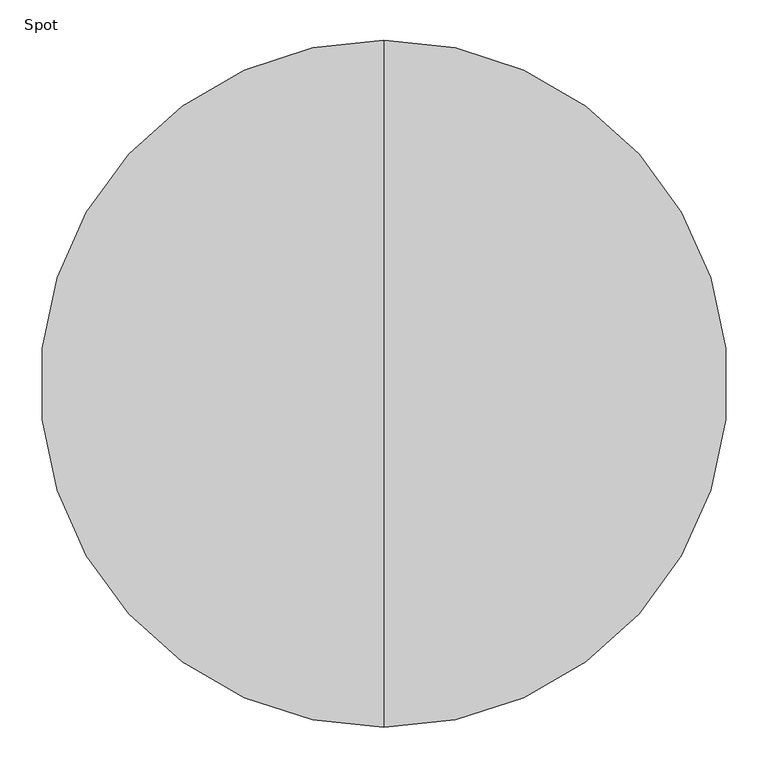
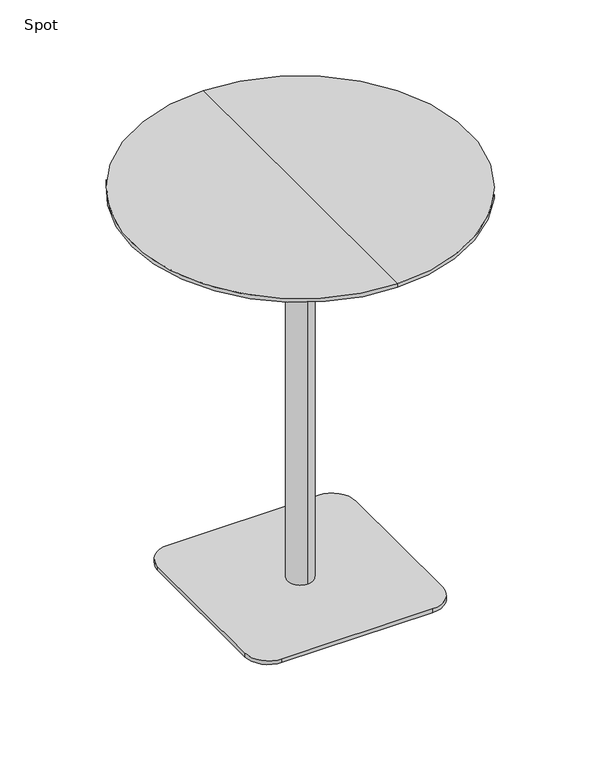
"""IFC4 building model written with IfcOpenShell, lengths in millimetres: furniture geometry, Spot : ø85x105s."""

import ifcopenshell
import ifcopenshell.guid

model = None  # the IFC model being written
_history = None  # IfcOwnerHistory: only IFC2X3 demands one
_inside = {}  # id of a spatial element -> (the spatial element, [elements in it])
_under = {}  # id of a project, library or spatial element -> (it, [spatial elements below it])
_declared = {}  # id of a project -> (the project, [libraries it declares])
_typed = {}  # id of a type object -> (the type object, [elements of that type])
_made_of = {}  # id of a material, layer set ... -> (it, [elements and type objects made of it])


def new_model(schema):
    """Start an empty IFC model of exactly this schema.

    Asked for "IFC4X3", IfcOpenShell would pick the latest addendum, in which some entities
    have other attributes; the version numbers below select the first issue.
    IFC2X3 requires an IfcOwnerHistory on every rooted entity: one is made here for all.
    """
    global model, _history
    if schema == "IFC4X3":
        model = ifcopenshell.file(schema_version=(4, 3, 0, 0))
    else:
        model = ifcopenshell.file(schema=schema)
    _inside.clear()
    _under.clear()
    _declared.clear()
    _typed.clear()
    _made_of.clear()
    _history = None
    if model.schema == "IFC2X3":
        org = make("IfcOrganization", Name="unknown")
        user = make(
            "IfcPersonAndOrganization",
            ThePerson=make("IfcPerson", FamilyName="unknown"),
            TheOrganization=org,
        )
        app = make(
            "IfcApplication",
            ApplicationDeveloper=org,
            Version="unknown",
            ApplicationFullName="unknown",
            ApplicationIdentifier="unknown",
        )
        _history = make(
            "IfcOwnerHistory",
            OwningUser=user,
            OwningApplication=app,
            ChangeAction="ADDED",
            CreationDate=0,
        )
    return model


def make(cls, **values):
    """One entity of the class cls with the attributes given. An attribute that is None is left unset."""
    return model.create_entity(
        cls, **{name: value for name, value in values.items() if value is not None}
    )


def rooted(cls, **values):
    """An entity with a GlobalId (a new one), such as an element, a storey or a relation."""
    return make(cls, GlobalId=ifcopenshell.guid.new(), OwnerHistory=_history, **values)


def si_unit(unit_type, name, prefix=None):
    """IfcSIUnit, for example si_unit("LENGTHUNIT", "METRE", prefix="MILLI")."""
    return make("IfcSIUnit", UnitType=unit_type, Prefix=prefix, Name=name)


def assignment(units):
    """IfcUnitAssignment: the units of a project."""
    return None if units is None else make("IfcUnitAssignment", Units=units)


def point(xyz):
    """IfcCartesianPoint."""
    return None if xyz is None else make("IfcCartesianPoint", Coordinates=xyz)


def direction(xyz):
    """IfcDirection."""
    return None if xyz is None else make("IfcDirection", DirectionRatios=xyz)


def frame(location, z_axis=None, x_axis=None):
    """IfcAxis2Placement3D, a coordinate frame: its origin and axes. An axis left out is left unset."""
    return make(
        "IfcAxis2Placement3D",
        Location=point(location),
        Axis=direction(z_axis),
        RefDirection=direction(x_axis),
    )


def frame_2d(location, x_axis=None):
    """IfcAxis2Placement2D, a coordinate frame in the plane: its origin and x axis."""
    return make(
        "IfcAxis2Placement2D", Location=point(location), RefDirection=direction(x_axis)
    )


def origin():
    """The frame at (0, 0, 0) with its axes left unset."""
    return frame((0.0, 0.0, 0.0))


def origin_with_axes():
    """The frame at (0, 0, 0) with the z axis (0, 0, 1) and the x axis (1, 0, 0) written out."""
    return frame((0.0, 0.0, 0.0), z_axis=(0.0, 0.0, 1.0), x_axis=(1.0, 0.0, 0.0))


def place(relative_to, where):
    """IfcLocalPlacement: puts the frame where relative to a parent placement (None: the world)."""
    return make(
        "IfcLocalPlacement", PlacementRelTo=relative_to, RelativePlacement=where
    )


def context(
    kind, dimensions, precision=None, world=None, true_north=None, identifier=None
):
    """IfcGeometricRepresentationContext, for example the 3D "Model" context."""
    return make(
        "IfcGeometricRepresentationContext",
        ContextIdentifier=identifier,
        ContextType=kind,
        CoordinateSpaceDimension=dimensions,
        Precision=precision,
        WorldCoordinateSystem=world,
        TrueNorth=true_north,
    )


def project(units=None, contexts=None):
    """IfcProject with its units and contexts."""
    return rooted(
        "IfcProject",
        Name="project",
        RepresentationContexts=contexts,
        UnitsInContext=assignment(units),
    )


def spatial(cls, under=None, at=None, **own):
    """A site, building, storey or space (cls), placed at a placement, below another one or the project."""
    s = rooted(cls, ObjectPlacement=at, **own)
    if under is not None:
        _under.setdefault(under.id(), (under, []))[1].append(s)
    return s


def polyline(points):
    """IfcPolyline through the points."""
    return make("IfcPolyline", Points=[point(p) for p in points])


def circle_curve(where, radius):
    """IfcCircle in the frame where."""
    return make("IfcCircle", Position=where, Radius=radius)


def trimmed(basis, trim1, trim2, sense, master):
    """IfcTrimmedCurve: the piece of a basis curve between two trims."""
    return make(
        "IfcTrimmedCurve",
        BasisCurve=basis,
        Trim1=trim1,
        Trim2=trim2,
        SenseAgreement=sense,
        MasterRepresentation=master,
    )


def segment(curve, same_sense, transition):
    """IfcCompositeCurveSegment."""
    return make(
        "IfcCompositeCurveSegment",
        Transition=transition,
        SameSense=same_sense,
        ParentCurve=curve,
    )


def composite_curve(segments, self_intersect=None):
    """IfcCompositeCurve: segments joined end to end."""
    return make("IfcCompositeCurve", Segments=segments, SelfIntersect=self_intersect)


def outline(outer, holes=None, kind="AREA"):
    """IfcArbitraryClosedProfileDef: a profile drawn as a closed curve; with holes, ...WithVoids."""
    if holes is None:
        return make("IfcArbitraryClosedProfileDef", ProfileType=kind, OuterCurve=outer)
    return make(
        "IfcArbitraryProfileDefWithVoids",
        ProfileType=kind,
        OuterCurve=outer,
        InnerCurves=holes,
    )


def extrude(swept, where, along, depth):
    """IfcExtrudedAreaSolid: the profile swept, set in the frame where, extruded along a direction by depth."""
    return make(
        "IfcExtrudedAreaSolid",
        SweptArea=swept,
        Position=where,
        ExtrudedDirection=direction(along),
        Depth=depth,
    )


def shape(context_of_items, identifier, shape_type, items):
    """IfcShapeRepresentation: the items that make up one representation, for example the "Body"."""
    return make(
        "IfcShapeRepresentation",
        ContextOfItems=context_of_items,
        RepresentationIdentifier=identifier,
        RepresentationType=shape_type,
        Items=items,
    )


def source(mapping_origin, context_of_items, identifier, shape_type, items):
    """IfcRepresentationMap: a shape defined once, which mapped items show again and again."""
    return make(
        "IfcRepresentationMap",
        MappingOrigin=mapping_origin,
        MappedRepresentation=shape(context_of_items, identifier, shape_type, items),
    )


def transform(
    local_origin,
    x_axis=None,
    y_axis=None,
    z_axis=None,
    scale=None,
    scale2=None,
    scale3=None,
    uniform=True,
):
    """IfcCartesianTransformationOperator3D, or its non-uniform kind. x_axis, y_axis, z_axis: its Axis1, 2, 3."""
    if uniform:
        return make(
            "IfcCartesianTransformationOperator3D",
            Axis1=direction(x_axis),
            Axis2=direction(y_axis),
            LocalOrigin=point(local_origin),
            Scale=scale,
            Axis3=direction(z_axis),
        )
    return make(
        "IfcCartesianTransformationOperator3DnonUniform",
        Axis1=direction(x_axis),
        Axis2=direction(y_axis),
        LocalOrigin=point(local_origin),
        Scale=scale,
        Axis3=direction(z_axis),
        Scale2=scale2,
        Scale3=scale3,
    )


def mapped(mapping_source, mapping_target):
    """IfcMappedItem: shows the shape of a source again, moved by a transform."""
    return make(
        "IfcMappedItem", MappingSource=mapping_source, MappingTarget=mapping_target
    )


def made_of(thing, what):
    """Note that an element or type object is made of a material, layer set ...; save() writes the relation."""
    if what is not None:
        _made_of.setdefault(what.id(), (what, []))[1].append(thing)
    return thing


def element(
    cls,
    number,
    at=None,
    inside=None,
    cuts=None,
    type_object=None,
    material=None,
    context=None,
    identifier="Body",
    shape_type=None,
    held_by="IfcProductDefinitionShape",
    body=None,
    shapes=None,
    **own,
):
    """One element of the class cls, such as IfcWall. Its Tag is "e" and its number.

    at: its placement. inside: the storey or other place that contains it. cuts: it is an
    opening in that element (IfcRelVoidsElement). A single representation is given by context,
    identifier, shape_type and body (its items); several are given by shapes. held_by: the class
    of the entity that holds the representations. save() writes the other relations.
    """
    e = rooted(cls, Tag="e%d" % number, ObjectPlacement=at, **own)
    if body is not None:
        shapes = [shape(context, identifier, shape_type, body)]
    if shapes is not None:
        e.Representation = make(held_by, Representations=shapes)
    if inside is not None:
        _inside.setdefault(inside.id(), (inside, []))[1].append(e)
    if cuts is not None:
        rooted(
            "IfcRelVoidsElement", RelatingBuildingElement=cuts, RelatedOpeningElement=e
        )
    if type_object is not None:
        _typed.setdefault(type_object.id(), (type_object, []))[1].append(e)
    return made_of(e, material)


def aggregate(whole, parts):
    """IfcRelAggregates: a whole, such as a stair, and the parts it consists of."""
    return rooted("IfcRelAggregates", RelatingObject=whole, RelatedObjects=parts)


def save(model, path):
    """Write the relations noted so far, then the file.

    IfcRelAggregates (storeys below a building ...), IfcRelContainedInSpatialStructure (elements
    in a storey), IfcRelDefinesByType, IfcRelAssociatesMaterial and IfcRelDeclares: one each for
    every whole, place, type object, material and project.
    """
    for whole, parts in _under.values():
        aggregate(whole, parts)
    for where, things in _inside.values():
        rooted(
            "IfcRelContainedInSpatialStructure",
            RelatedElements=things,
            RelatingStructure=where,
        )
    for kind, things in _typed.values():
        rooted("IfcRelDefinesByType", RelatedObjects=things, RelatingType=kind)
    for what, things in _made_of.values():
        rooted("IfcRelAssociatesMaterial", RelatedObjects=things, RelatingMaterial=what)
    for by, libraries in _declared.values():
        rooted("IfcRelDeclares", RelatingContext=by, RelatedDefinitions=libraries)
    model.write(path)


def plane_surface(at):
    """IfcPlane: the flat surface through the origin of the frame at, square to its z axis."""
    return make("IfcPlane", Position=at)


def cylinder_surface(at, radius):
    """IfcCylindricalSurface: all points at the distance radius from the z axis of the frame at."""
    return make("IfcCylindricalSurface", Position=at, Radius=radius)


def revolved_surface(curve, axis_point, axis_direction):
    """IfcSurfaceOfRevolution: the curve turned about the line through axis_point along axis_direction."""
    return make(
        "IfcSurfaceOfRevolution",
        SweptCurve=make("IfcArbitraryOpenProfileDef", ProfileType="CURVE", Curve=curve),
        AxisPosition=make("IfcAxis1Placement", Location=point(axis_point), Axis=direction(axis_direction)),
    )


def advanced_brep(points, edges, surfaces, faces):
    """IfcAdvancedBrep: a solid bounded by faces that lie on surfaces and meet in shared edges.

    An edge is (start, end): straight between two places in points (the first is 0);
    or (start, end, curve); or (start, end, curve, False) where it runs against its curve.
    A face is (place in surfaces, loops), or (place, loops, False) where it looks against
    its surface's normal. A loop lists edges by number (the first is 1), with a minus sign
    where the edge is run from its end to its start. The first loop is the outer one.
    """
    corners = [point(p) for p in points]
    vertices = [make("IfcVertexPoint", VertexGeometry=c) for c in corners]
    made = []
    for start, end, *more in edges:
        made.append(
            make(
                "IfcEdgeCurve",
                EdgeStart=vertices[start],
                EdgeEnd=vertices[end],
                EdgeGeometry=more[0] if more else make("IfcPolyline", Points=[corners[start], corners[end]]),
                SameSense=more[1] if len(more) > 1 else True,
            )
        )
    hull = []
    for where, loops, *sense in faces:
        bounds = []
        for j, loop in enumerate(loops):
            ring = [make("IfcOrientedEdge", EdgeElement=made[abs(k) - 1], Orientation=k > 0) for k in loop]
            bounds.append(
                make(
                    "IfcFaceOuterBound" if j == 0 else "IfcFaceBound",
                    Bound=make("IfcEdgeLoop", EdgeList=ring),
                    Orientation=True,
                )
            )
        hull.append(make("IfcAdvancedFace", Bounds=bounds, FaceSurface=surfaces[where], SameSense=sense[0] if sense else True))
    return make("IfcAdvancedBrep", Outer=make("IfcClosedShell", CfsFaces=hull))


def spot_0e79f22b(model_context):
    return source(origin(), model_context, "Body", "SolidModel", [
        advanced_brep(
        [(0.0, 425.0, 1050.0), (0.0, -425.0, 1050.0), (0.0, 0.0, 1050.0), (0.0, 425.0, 1040.25), (0.0, -425.0, 1040.25), (0.0, 379.2823776, 1028.0), (0.0, -379.2823776, 1028.0), (0.0, 0.0, 1028.0)],
        [
            (0, 1, circle_curve(frame((0.0, 0.0, 1050.0), z_axis=(0.0, 0.0, 1.0), x_axis=(0.0, -1.0, 0.0)), 425.0)),
            (1, 2),
            (2, 0),
            (1, 0, circle_curve(frame((0.0, 0.0, 1050.0), z_axis=(0.0, 0.0, 1.0), x_axis=(0.0, -1.0, 0.0)), 425.0)),
            (3, 4, circle_curve(frame((0.0, 0.0, 1040.25), z_axis=(0.0, 0.0, 1.0), x_axis=(0.0, -1.0, 0.0)), 425.0)),
            (4, 1),
            (0, 3),
            (4, 3, circle_curve(frame((0.0, 0.0, 1040.25), z_axis=(0.0, 0.0, 1.0), x_axis=(0.0, -1.0, 0.0)), 425.0)),
            (5, 6, circle_curve(frame((0.0, 0.0, 1028.0), z_axis=(0.0, 0.0, 1.0), x_axis=(0.0, -1.0, 0.0)), 379.2823776)),
            (6, 4),
            (3, 5),
            (6, 5, circle_curve(frame((0.0, 0.0, 1028.0), z_axis=(0.0, 0.0, 1.0), x_axis=(0.0, -1.0, 0.0)), 379.2823776)),
            (7, 6),
            (5, 7),
        ],
        [
            plane_surface(frame((0.0, 0.0, 1050.0), z_axis=(0.0, 0.0, 1.0), x_axis=(0.0, -1.0, 0.0))),
            cylinder_surface(frame((0.0, 0.0, 1130.0), z_axis=(0.0, 0.0, -1.0), x_axis=(0.0, -1.0, 0.0)), 425.0),
            revolved_surface(polyline([(0.0, -425.0, 1040.25), (0.0, -379.2823776, 1028.0)]), (0.0, 0.0, 1130.0), (0.0, 0.0, -1.0)),
            plane_surface(frame((0.0, 0.0, 1028.0), z_axis=(0.0, 0.0, -1.0), x_axis=(0.0, -1.0, 0.0))),
        ],
        [
            (0, [[1, 2, 3]]),
            (0, [[4, -3, -2]]),
            (1, [[5, 6, -1, 7]]),
            (1, [[8, -7, -4, -6]]),
            (2, [[9, 10, -5, 11]]),
            (2, [[12, -11, -8, -10]]),
            (3, [[13, -9, 14]]),
            (3, [[-14, -12, -13]]),
        ],
    ),
        extrude(outline(composite_curve([segment(trimmed(circle_curve(frame_2d((190.0, 190.0)), 60.0), [point((190.0, 250.0))], [point((250.0, 190.0))], False, "CARTESIAN"), True, "CONTINUOUS"), segment(polyline([(250.0, 190.0), (250.0, -190.0)]), True, "CONTINUOUS"), segment(trimmed(circle_curve(frame_2d((190.0, -190.0)), 60.0), [point((250.0, -190.0))], [point((190.0, -250.0))], False, "CARTESIAN"), True, "CONTINUOUS"), segment(polyline([(190.0, -250.0), (-190.0, -250.0)]), True, "CONTINUOUS"), segment(trimmed(circle_curve(frame_2d((-190.0, -190.0)), 60.0), [point((-190.0, -250.0))], [point((-250.0, -190.0))], False, "CARTESIAN"), True, "CONTINUOUS"), segment(polyline([(-250.0, -190.0), (-250.0, 190.0)]), True, "CONTINUOUS"), segment(trimmed(circle_curve(frame_2d((-190.0, 190.0)), 60.0), [point((-250.0, 190.0))], [point((-190.0, 250.0))], False, "CARTESIAN"), True, "CONTINUOUS"), segment(polyline([(-190.0, 250.0), (190.0, 250.0)]), True, "CONTINUOUS")], self_intersect=False)), origin_with_axes(), (0.0, 0.0, 1.0), 10.0),
        advanced_brep(
        [(0.0, 32.0, 10.0), (0.0, -32.0, 10.0), (0.0, -32.0, 997.406916), (0.0, 32.0, 997.406916), (0.0, 0.0, 10.0), (0.0, 150.0, 1028.0), (0.0, -150.0, 1028.0), (0.0, 0.0, 1028.0), (0.0, 150.0, 1016.7213673), (0.0, -150.0, 1016.7213673)],
        [
            (0, 1, circle_curve(frame((0.0, 0.0, 10.0), z_axis=(0.0, 0.0, 1.0), x_axis=(0.0, -1.0, 0.0)), 32.0)),
            (1, 2),
            (2, 3, circle_curve(frame((0.0, 0.0, 997.406916), z_axis=(0.0, 0.0, -1.0), x_axis=(0.0, -1.0, 0.0)), 32.0)),
            (3, 0),
            (1, 0, circle_curve(frame((0.0, 0.0, 10.0), z_axis=(0.0, 0.0, 1.0), x_axis=(0.0, -1.0, 0.0)), 32.0)),
            (3, 2, circle_curve(frame((0.0, 0.0, 997.406916), z_axis=(0.0, 0.0, -1.0), x_axis=(0.0, -1.0, 0.0)), 32.0)),
            (4, 1),
            (0, 4),
            (5, 6, circle_curve(frame((0.0, 0.0, 1028.0), z_axis=(0.0, 0.0, 1.0), x_axis=(0.0, -1.0, 0.0)), 150.0)),
            (6, 7),
            (7, 5),
            (6, 5, circle_curve(frame((0.0, 0.0, 1028.0), z_axis=(0.0, 0.0, 1.0), x_axis=(0.0, -1.0, 0.0)), 150.0)),
            (8, 9, circle_curve(frame((0.0, 0.0, 1016.7213673), z_axis=(0.0, 0.0, 1.0), x_axis=(0.0, -1.0, 0.0)), 150.0)),
            (9, 6),
            (5, 8),
            (9, 8, circle_curve(frame((0.0, 0.0, 1016.7213673), z_axis=(0.0, 0.0, 1.0), x_axis=(0.0, -1.0, 0.0)), 150.0)),
            (2, 9),
            (8, 3),
        ],
        [
            cylinder_surface(frame((0.0, 0.0, 1390.0), z_axis=(0.0, 0.0, -1.0), x_axis=(0.0, -1.0, 0.0)), 32.0),
            plane_surface(frame((0.0, 0.0, 10.0), z_axis=(0.0, 0.0, -1.0), x_axis=(0.0, -1.0, 0.0))),
            plane_surface(frame((0.0, 0.0, 1028.0), z_axis=(0.0, 0.0, 1.0), x_axis=(0.0, -1.0, 0.0))),
            cylinder_surface(frame((0.0, 0.0, 1390.0), z_axis=(0.0, 0.0, -1.0), x_axis=(0.0, -1.0, 0.0)), 150.0),
            revolved_surface(polyline([(0.0, -150.0, 1016.7213673), (0.0, -32.0, 997.406916)]), (0.0, 0.0, 1390.0), (0.0, 0.0, -1.0)),
        ],
        [
            (0, [[1, 2, 3, 4]]),
            (0, [[5, -4, 6, -2]]),
            (1, [[7, -1, 8]]),
            (1, [[-8, -5, -7]]),
            (2, [[9, 10, 11]]),
            (2, [[12, -11, -10]]),
            (3, [[13, 14, -9, 15]]),
            (3, [[16, -15, -12, -14]]),
            (4, [[-3, 17, -13, 18]]),
            (4, [[-6, -18, -16, -17]]),
        ],
    ),
        extrude(outline(polyline([(0.0, 0.0), (-20.0, 0.0), (-20.0, 20.0), (0.0, 20.0), (0.0, 0.0)])), origin_with_axes(), (0.0, 0.0, 1.0), 10.0),
    ])


if __name__ == "__main__":
    model = new_model("IFC4")
    model_context = context("Model", 3, world=origin())
    ifc_project = project(units=[si_unit("LENGTHUNIT", "METRE", prefix="MILLI")], contexts=[model_context])
    site = spatial("IfcSite", under=ifc_project)
    building = spatial("IfcBuilding", under=site)
    placement = place(None, origin())
    spot_shape = spot_0e79f22b(model_context)
    element("IfcFurniture", 1, ObjectType="Spot : ø85x105s", at=placement, inside=building, context=model_context, shape_type="MappedRepresentation", body=[
        mapped(spot_shape, transform((0.0, 0.0, 0.0), x_axis=(1.0, 0.0, 0.0), y_axis=(0.0, 1.0, 0.0), z_axis=(0.0, 0.0, 1.0))),
    ])
    save(model, "model.ifc")
